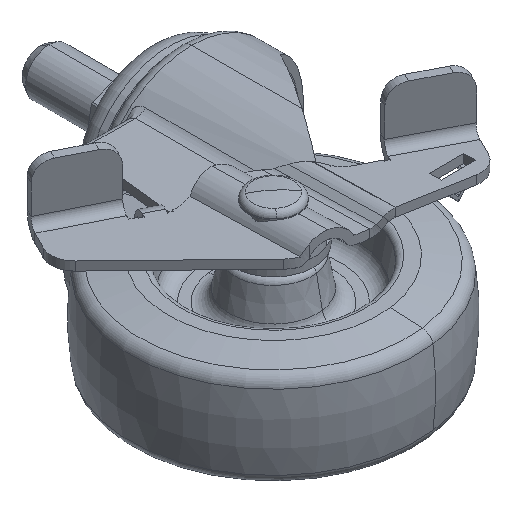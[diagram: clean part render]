
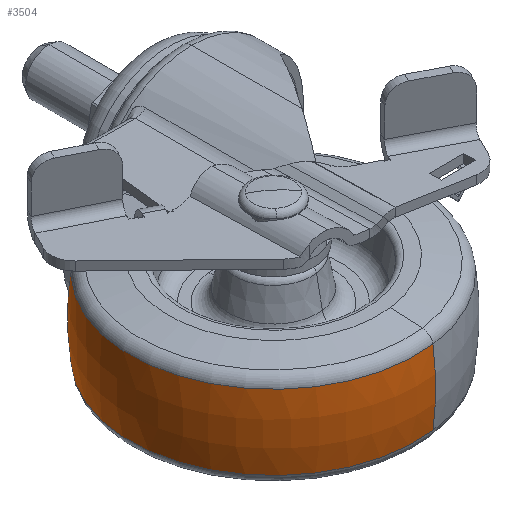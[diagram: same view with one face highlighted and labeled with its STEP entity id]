
A CAD part, isometric view. The second image highlights one B-rep face of the part: STEP entity #3504.
In plain terms, the highlighted toroidal (fillet/blend) face has major radius 25 mm and minor radius 50 mm.
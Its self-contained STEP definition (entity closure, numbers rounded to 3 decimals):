
#365 = CARTESIAN_POINT ( 'NONE',  ( 24.587, 0., -6.414 ) ) ;
#386 = TOROIDAL_SURFACE ( 'NONE', #7393, -25., 50. ) ;
#427 = CARTESIAN_POINT ( 'NONE',  ( 25., 0., 0. ) ) ;
#455 = DIRECTION ( 'NONE',  ( 0., 1., 0. ) ) ;
#525 = CIRCLE ( 'NONE', #3239, 24.587 ) ;
#569 = EDGE_CURVE ( 'NONE', #2885, #4430, #525, .T. ) ;
#941 = CARTESIAN_POINT ( 'NONE',  ( -24.587, 0., 6.414 ) ) ;
#1096 = CIRCLE ( 'NONE', #4456, 50. ) ;
#1286 = DIRECTION ( 'NONE',  ( 0., -1., 0. ) ) ;
#1520 = EDGE_LOOP ( 'NONE', ( #2438, #3192, #7611, #1779 ) ) ;
#1779 = ORIENTED_EDGE ( 'NONE', *, *, #5395, .F. ) ;
#1990 = CARTESIAN_POINT ( 'NONE',  ( 24.587, 0., 6.414 ) ) ;
#2356 = AXIS2_PLACEMENT_3D ( 'NONE', #5945, #4089, #6563 ) ;
#2364 = CIRCLE ( 'NONE', #2356, 24.587 ) ;
#2438 = ORIENTED_EDGE ( 'NONE', *, *, #569, .T. ) ;
#2838 = DIRECTION ( 'NONE',  ( 0., 0., 1. ) ) ;
#2885 = VERTEX_POINT ( 'NONE', #365 ) ;
#3045 = CARTESIAN_POINT ( 'NONE',  ( 0., 0., 0. ) ) ;
#3192 = ORIENTED_EDGE ( 'NONE', *, *, #5800, .T. ) ;
#3203 = VERTEX_POINT ( 'NONE', #1990 ) ;
#3227 = DIRECTION ( 'NONE',  ( 0., 0., -1. ) ) ;
#3239 = AXIS2_PLACEMENT_3D ( 'NONE', #6695, #2838, #7340 ) ;
#3504 = ADVANCED_FACE ( 'NONE', ( #4702 ), #386, .T. ) ;
#3673 = DIRECTION ( 'NONE',  ( 1., 0., 0. ) ) ;
#4089 = DIRECTION ( 'NONE',  ( 0., 0., 1. ) ) ;
#4292 = CARTESIAN_POINT ( 'NONE',  ( -24.587, 0., -6.414 ) ) ;
#4430 = VERTEX_POINT ( 'NONE', #4292 ) ;
#4456 = AXIS2_PLACEMENT_3D ( 'NONE', #6514, #1286, #3227 ) ;
#4613 = AXIS2_PLACEMENT_3D ( 'NONE', #427, #455, #4950 ) ;
#4701 = CIRCLE ( 'NONE', #4613, 50. ) ;
#4702 = FACE_OUTER_BOUND ( 'NONE', #1520, .T. ) ;
#4950 = DIRECTION ( 'NONE',  ( -1., 0., 0. ) ) ;
#5395 = EDGE_CURVE ( 'NONE', #2885, #3203, #1096, .T. ) ;
#5800 = EDGE_CURVE ( 'NONE', #4430, #6154, #4701, .T. ) ;
#5945 = CARTESIAN_POINT ( 'NONE',  ( 0., 0., 6.414 ) ) ;
#6154 = VERTEX_POINT ( 'NONE', #941 ) ;
#6514 = CARTESIAN_POINT ( 'NONE',  ( -25., 0., 0. ) ) ;
#6563 = DIRECTION ( 'NONE',  ( 1., 0., 0. ) ) ;
#6695 = CARTESIAN_POINT ( 'NONE',  ( 0., 0., -6.414 ) ) ;
#7131 = EDGE_CURVE ( 'NONE', #3203, #6154, #2364, .T. ) ;
#7340 = DIRECTION ( 'NONE',  ( 1., 0., 0. ) ) ;
#7393 = AXIS2_PLACEMENT_3D ( 'NONE', #3045, #7527, #3673 ) ;
#7527 = DIRECTION ( 'NONE',  ( 0., 0., 1. ) ) ;
#7611 = ORIENTED_EDGE ( 'NONE', *, *, #7131, .F. ) ;
